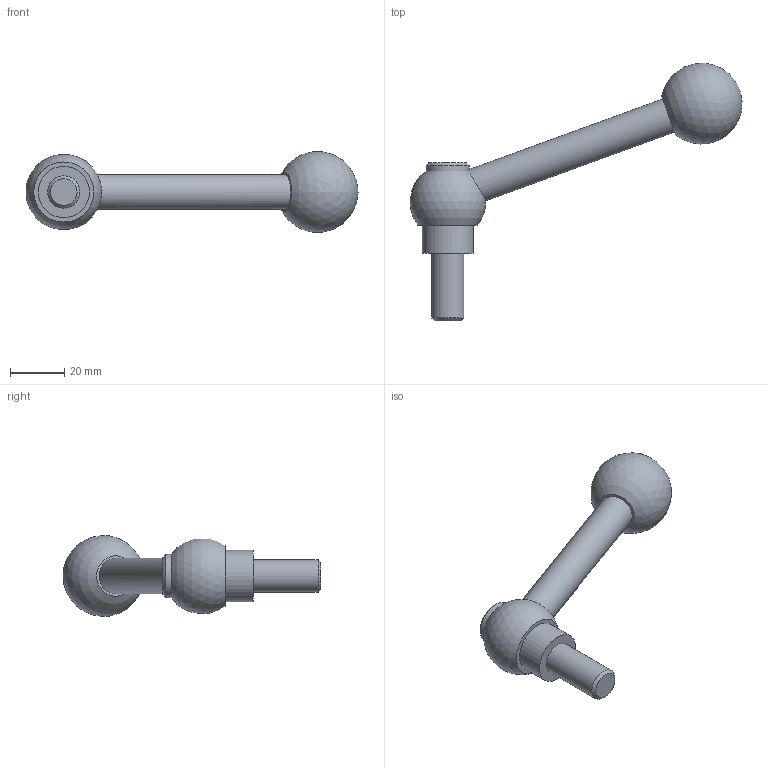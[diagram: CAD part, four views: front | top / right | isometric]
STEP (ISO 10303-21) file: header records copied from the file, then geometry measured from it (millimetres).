
FILE_DESCRIPTION( ( 'STEP AP203' ), '1' );
FILE_NAME( 'C:/Temp/Ganter_Step_05_03_2020/data/2_1/gn_6337_3/gn_6337_3_ms/gn_6337_3_ms_n/Adjustable clamping lever with bolt GN 6337.3-28-M12-25-N.stp', '2020-03-05T11:41:19', ( 'License CC BY-ND 4.0' ), ( 'CADENAS' ), ' ', 'PARTsolutions', ' ' );
FILE_SCHEMA( ( 'CONFIG_CONTROL_DESIGN' ) );
Length unit declared in the file: millimetre
Products named in the file (1): _Adjustable clamping lever with bolt GN 6337.3-28-M12-25-N
Bounding box: 122.96 x 95.49 x 29.7 mm (x, y, z)
Volume: 40323.5 mm3; surface area: 9638.3 mm2
Topology: 1 solids, 1 shells, 13 faces, 25 edges, 16 vertices
Faces by surface type: plane 5, cylinder 4, cone 2, sphere 2
Full cylindrical faces by diameter (mm): 12 x1, 13 x1, 15.969 x1, 19 x1
Entity records: 386 total; most frequent: CARTESIAN_POINT 124, DIRECTION 50, ORIENTED_EDGE 26, AXIS2_PLACEMENT_3D 25, EDGE_LOOP 23, FACE_OUTER_BOUND 18, ADVANCED_FACE 13, VERTEX_POINT 13
